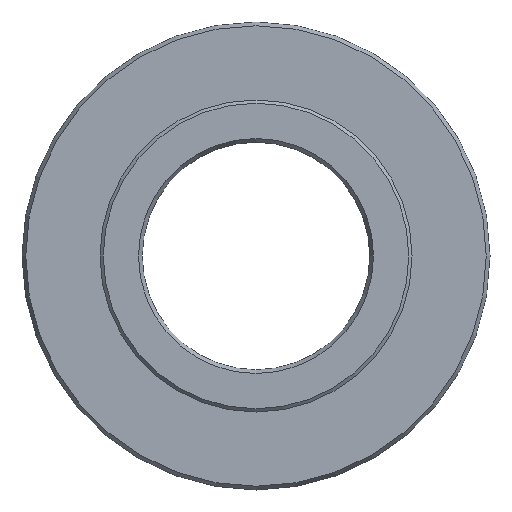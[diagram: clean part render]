
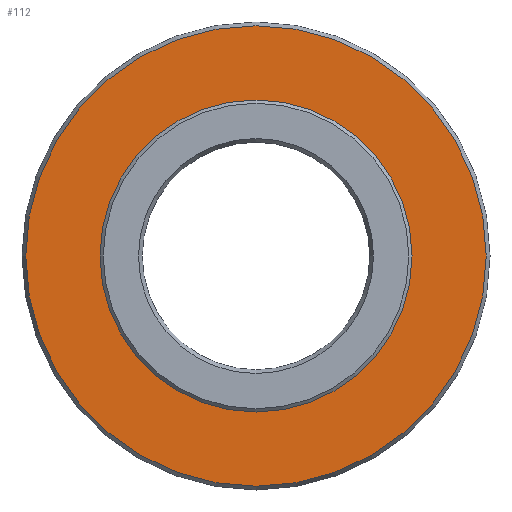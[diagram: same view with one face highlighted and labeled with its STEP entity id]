
A CAD part, left-side view. The second image highlights one B-rep face of the part: STEP entity #112.
In plain terms, the highlighted planar face has unit normal (-1, 0, 0).
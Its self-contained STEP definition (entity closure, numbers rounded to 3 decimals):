
#107=PLANE('',#279);
#112=ADVANCED_FACE('',(#131,#132),#107,.T.);
#131=FACE_BOUND('',#163,.T.);
#132=FACE_BOUND('',#164,.T.);
#163=EDGE_LOOP('',(#195));
#164=EDGE_LOOP('',(#196));
#195=ORIENTED_EDGE('',*,*,#243,.T.);
#196=ORIENTED_EDGE('',*,*,#244,.T.);
#227=VERTEX_POINT('',#379);
#228=VERTEX_POINT('',#381);
#243=EDGE_CURVE('',#227,#227,#259,.T.);
#244=EDGE_CURVE('',#228,#228,#260,.T.);
#259=CIRCLE('',#277,35.423);
#260=CIRCLE('',#278,24.);
#277=AXIS2_PLACEMENT_3D('',#378,#314,#315);
#278=AXIS2_PLACEMENT_3D('',#380,#316,#317);
#279=AXIS2_PLACEMENT_3D('',#382,#318,#319);
#314=DIRECTION('',(-1.,0.,0.));
#315=DIRECTION('',(0.,0.,1.));
#316=DIRECTION('',(1.,0.,0.));
#317=DIRECTION('',(0.,0.,-1.));
#318=DIRECTION('',(-1.,0.,0.));
#319=DIRECTION('',(0.,0.,1.));
#378=CARTESIAN_POINT('',(0.,0.,0.));
#379=CARTESIAN_POINT('',(0.,0.,35.423));
#380=CARTESIAN_POINT('',(0.,0.,0.));
#381=CARTESIAN_POINT('',(0.,0.,-24.));
#382=CARTESIAN_POINT('',(0.,36.,0.));
